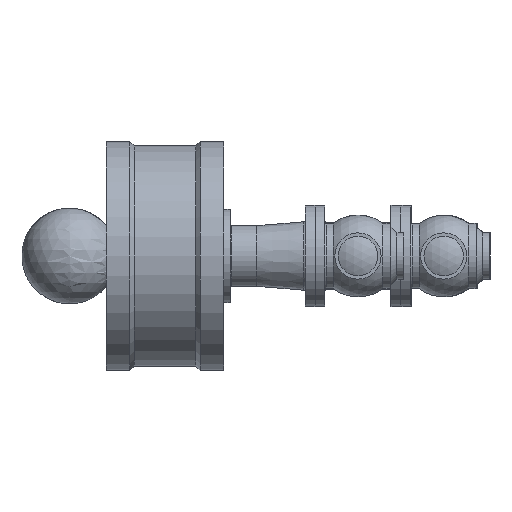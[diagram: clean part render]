
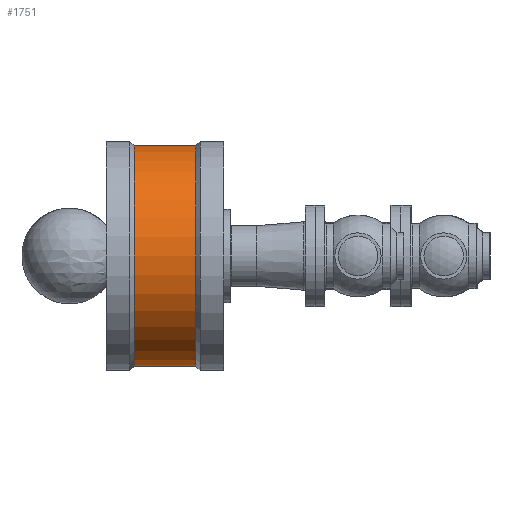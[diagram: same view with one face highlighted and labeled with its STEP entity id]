
A CAD part, left-side view. The second image highlights one B-rep face of the part: STEP entity #1751.
In plain terms, the highlighted cylindrical face has radius 167 mm (diameter 334 mm), a full revolution.
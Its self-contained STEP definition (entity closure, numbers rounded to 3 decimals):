
#194=LINE('',#3183,#242);
#242=VECTOR('',#2496,167.);
#286=CYLINDRICAL_SURFACE('',#2059,167.);
#372=FACE_OUTER_BOUND('',#482,.T.);
#482=EDGE_LOOP('',(#1335,#1336,#1337,#1338,#1339,#1340));
#636=CIRCLE('',#2057,167.);
#637=CIRCLE('',#2058,167.);
#638=CIRCLE('',#2060,167.);
#639=CIRCLE('',#2061,167.);
#828=VERTEX_POINT('',#3173);
#829=VERTEX_POINT('',#3174);
#830=VERTEX_POINT('',#3179);
#831=VERTEX_POINT('',#3180);
#1025=EDGE_CURVE('',#828,#829,#636,.T.);
#1026=EDGE_CURVE('',#829,#828,#637,.T.);
#1028=EDGE_CURVE('',#830,#831,#638,.T.);
#1029=EDGE_CURVE('',#831,#830,#639,.T.);
#1030=EDGE_CURVE('',#831,#829,#194,.T.);
#1335=ORIENTED_EDGE('',*,*,#1028,.F.);
#1336=ORIENTED_EDGE('',*,*,#1029,.F.);
#1337=ORIENTED_EDGE('',*,*,#1030,.T.);
#1338=ORIENTED_EDGE('',*,*,#1026,.T.);
#1339=ORIENTED_EDGE('',*,*,#1025,.T.);
#1340=ORIENTED_EDGE('',*,*,#1030,.F.);
#1751=ADVANCED_FACE('',(#372),#286,.T.);
#2057=AXIS2_PLACEMENT_3D('',#3175,#2485,#2486);
#2058=AXIS2_PLACEMENT_3D('',#3176,#2487,#2488);
#2059=AXIS2_PLACEMENT_3D('',#3178,#2490,#2491);
#2060=AXIS2_PLACEMENT_3D('',#3181,#2492,#2493);
#2061=AXIS2_PLACEMENT_3D('',#3182,#2494,#2495);
#2485=DIRECTION('center_axis',(-1.,0.,0.));
#2486=DIRECTION('ref_axis',(0.,0.,1.));
#2487=DIRECTION('center_axis',(-1.,0.,0.));
#2488=DIRECTION('ref_axis',(0.,0.,1.));
#2490=DIRECTION('center_axis',(-1.,0.,0.));
#2491=DIRECTION('ref_axis',(0.,0.,1.));
#2492=DIRECTION('center_axis',(-1.,0.,0.));
#2493=DIRECTION('ref_axis',(0.,0.,1.));
#2494=DIRECTION('center_axis',(-1.,0.,0.));
#2495=DIRECTION('ref_axis',(0.,0.,1.));
#2496=DIRECTION('',(1.,0.,0.));
#3173=CARTESIAN_POINT('',(-45.5,0.,167.));
#3174=CARTESIAN_POINT('',(-45.5,0.,-167.));
#3175=CARTESIAN_POINT('Origin',(-45.5,0.,0.));
#3176=CARTESIAN_POINT('Origin',(-45.5,0.,0.));
#3178=CARTESIAN_POINT('Origin',(-92.,0.,0.));
#3179=CARTESIAN_POINT('',(-138.5,0.,167.));
#3180=CARTESIAN_POINT('',(-138.5,0.,-167.));
#3181=CARTESIAN_POINT('Origin',(-138.5,0.,0.));
#3182=CARTESIAN_POINT('Origin',(-138.5,0.,0.));
#3183=CARTESIAN_POINT('',(-92.,0.,-167.));
